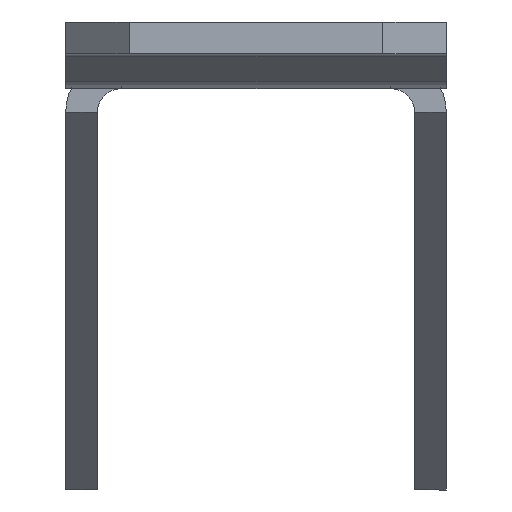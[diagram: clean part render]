
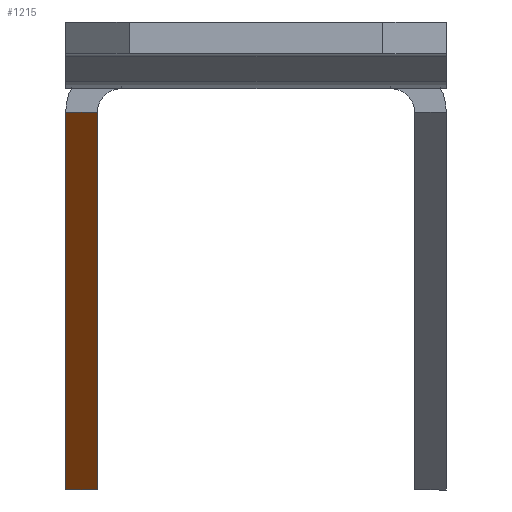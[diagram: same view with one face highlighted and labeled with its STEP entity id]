
A CAD part, left-side view. The second image highlights one B-rep face of the part: STEP entity #1215.
In plain terms, the highlighted planar face has unit normal (-0.707, 0, -0.707).
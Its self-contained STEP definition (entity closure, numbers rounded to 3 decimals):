
#557 = ORIENTED_EDGE ( 'NONE', *, *, #18694, .T. ) ;
#558 = ORIENTED_EDGE ( 'NONE', *, *, #18695, .F. ) ;
#559 = ORIENTED_EDGE ( 'NONE', *, *, #18696, .F. ) ;
#560 = ORIENTED_EDGE ( 'NONE', *, *, #18697, .T. ) ;
#1215 = ADVANCED_FACE ( 'NONE', ( #8862 ), #10445, .F. ) ;
#1276 = EDGE_LOOP ( 'NONE', ( #557, #558, #559, #560 ) ) ;
#2396 = VERTEX_POINT ( 'NONE', #10787 ) ;
#2399 = VERTEX_POINT ( 'NONE', #10790 ) ;
#2400 = VERTEX_POINT ( 'NONE', #10791 ) ;
#2401 = VERTEX_POINT ( 'NONE', #10792 ) ;
#8431 = AXIS2_PLACEMENT_3D ( 'NONE', #10443, #10447, #10448 ) ;
#8862 = FACE_OUTER_BOUND ( 'NONE', #1276, .T. ) ;
#10443 = CARTESIAN_POINT ( 'NONE',  ( -207.5, -63., -1.5 ) ) ;
#10445 = PLANE ( 'NONE',  #8431 ) ;
#10447 = DIRECTION ( 'NONE',  ( 0.707, 0., 0.707 ) ) ;
#10448 = DIRECTION ( 'NONE',  ( 0.707, 0., -0.707 ) ) ;
#10787 = CARTESIAN_POINT ( 'NONE',  ( -207.5, 10., -1.5 ) ) ;
#10790 = CARTESIAN_POINT ( 'NONE',  ( -183.7, 10., -25.3 ) ) ;
#10791 = CARTESIAN_POINT ( 'NONE',  ( -183.7, 12., -25.3 ) ) ;
#10792 = CARTESIAN_POINT ( 'NONE',  ( -207.5, 12., -1.5 ) ) ;
#16764 = LINE ( 'NONE', #17684, #16769 ) ;
#16765 = LINE ( 'NONE', #17673, #16767 ) ;
#16767 = VECTOR ( 'NONE', #17680, 1000. ) ;
#16768 = LINE ( 'NONE', #17689, #16771 ) ;
#16769 = VECTOR ( 'NONE', #17688, 1000. ) ;
#16770 = LINE ( 'NONE', #17691, #16773 ) ;
#16771 = VECTOR ( 'NONE', #17690, 1000. ) ;
#16773 = VECTOR ( 'NONE', #17692, 1000. ) ;
#17673 = CARTESIAN_POINT ( 'NONE',  ( 1.75, 12., -210.75 ) ) ;
#17680 = DIRECTION ( 'NONE',  ( 0.707, 0., -0.707 ) ) ;
#17684 = CARTESIAN_POINT ( 'NONE',  ( -183.7, -63., -25.3 ) ) ;
#17688 = DIRECTION ( 'NONE',  ( 0., 1., 0. ) ) ;
#17689 = CARTESIAN_POINT ( 'NONE',  ( 1.75, 10., -210.75 ) ) ;
#17690 = DIRECTION ( 'NONE',  ( 0.707, 0., -0.707 ) ) ;
#17691 = CARTESIAN_POINT ( 'NONE',  ( -207.5, 12., -1.5 ) ) ;
#17692 = DIRECTION ( 'NONE',  ( 0., 1., 0. ) ) ;
#18694 = EDGE_CURVE ( 'NONE', #2401, #2400, #16765, .T. ) ;
#18695 = EDGE_CURVE ( 'NONE', #2399, #2400, #16764, .T. ) ;
#18696 = EDGE_CURVE ( 'NONE', #2396, #2399, #16768, .T. ) ;
#18697 = EDGE_CURVE ( 'NONE', #2396, #2401, #16770, .T. ) ;
